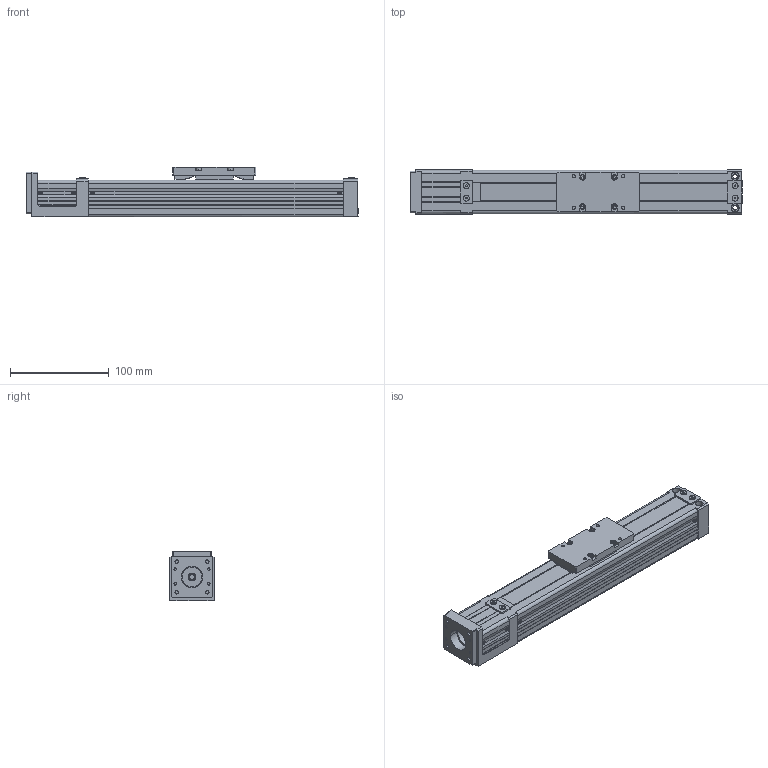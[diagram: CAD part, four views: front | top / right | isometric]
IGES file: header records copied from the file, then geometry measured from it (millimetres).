
Global section: file name: No Iges File Name specified; native system: AutoDesk Inventor R10; preprocessor: AutoDesk Inventor Iges Exporter R10; author: No Author specified; organization: No Organization specified; date: 20110617.144238; units: millimetre
Bounding box: 336 x 45 x 50 mm (x, y, z)
Surface area: 140628.7 mm2 (no closed solid volume)
Topology: 0 solids, 0 shells, 793 faces, 5222 edges, 5202 vertices
Faces by surface type: bspline 793
